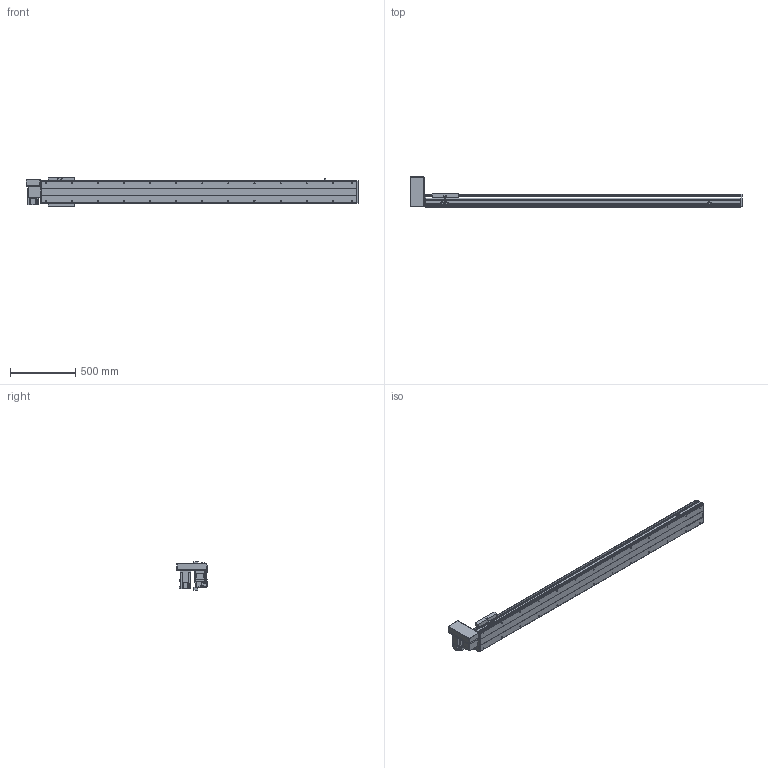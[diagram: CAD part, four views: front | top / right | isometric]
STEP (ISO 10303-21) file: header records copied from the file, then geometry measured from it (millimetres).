
FILE_DESCRIPTION(/* description */ ('STEP AP214'),/* implementation_level */ '2;1');
FILE_NAME(/* name */ 'PBS200-P40-S2050-RU-T75-C1-N(0)',/* time_stamp */ '2022-06-11T09:36:50+02:00',/* author */ ('License CC BY-ND 4.0'),/* organization */ ('CADENAS'),/* preprocessor_version */ 'ST-DEVELOPER v18.102',/* originating_system */ 'PARTsolutions',/* authorisation */ ' ');
FILE_SCHEMA (('AUTOMOTIVE_DESIGN {1 0 10303 214 3 1 1}'));
Length unit declared in the file: millimetre
Products named in the file (7): PBS200-P40-S2050-RU-T75-C1-N(0); PBS200_sensor; PBS200_plant; PBS200_sliser; T75-p1; PBS200T-RU_motors; PBS200-S2050()_body
Assembly tree (8 placements, depth 2):
  PBS200-P40-S2050-RU-T75-C1-N(0)
    PBS200_sensor  x3
    PBS200_plant
    PBS200_sliser
    T75-p1
    PBS200T-RU_motors
    PBS200-S2050()_body
Bounding box: 2550 x 231 x 221 mm (x, y, z)
Volume: 17794055.1 mm3; surface area: 2853236.4 mm2
Topology: 8 solids, 8 shells, 950 faces, 2424 edges, 1578 vertices
Faces by surface type: plane 584, cylinder 308, cone 58
Full cylindrical faces by diameter (mm): 2.459 x6, 3.242 x4, 4.5 x6, 4.917 x4, 5 x6, 6 x7, 6.6 x8, 6.647 x30, 8 x6, 10 x4, 12 x8, 38 x2, 40 x1, 70 x1
Entity records: 25181 total; most frequent: DIRECTION 4447, CARTESIAN_POINT 4282, ORIENTED_EDGE 4042, EDGE_CURVE 2021, AXIS2_PLACEMENT_3D 1567, VERTEX_POINT 1402, LINE 1313, VECTOR 1313
